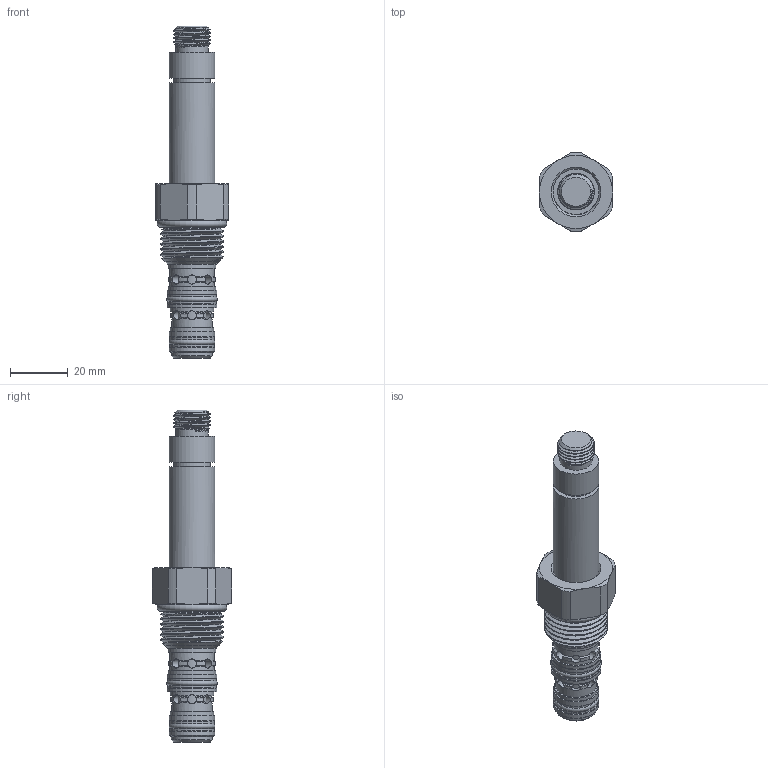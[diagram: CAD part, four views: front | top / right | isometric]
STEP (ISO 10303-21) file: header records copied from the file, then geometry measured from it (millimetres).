
FILE_DESCRIPTION(/* description */ ('','CAx-IF Rec.Pracs.---Representation and Presentation of Product Manufacturing Information (PMI)---4.0---2014-10-13'),/* implementation_level */ '2;1');
FILE_NAME(/* name */ 'P:\EARS\EAR16xx\EAR1683 - catalog pages changes\Group4a_4_Distributions_2_1_23\RTeck Agency_Tom_UNSENT\_step files\HDFS3C00.stp',/* time_stamp */ '2023-02-02T15:36:02-06:00',/* author */ ('Michael'),/* organization */ (''),/* preprocessor_version */ 'ST-DEVELOPER v17.2',/* originating_system */ 'Autodesk Inventor 2019',/* authorisation */ '');
FILE_SCHEMA (('AP242_MANAGED_MODEL_BASED_3D_ENGINEERING_MIM_LF { 1 0 10303 442 1 1 4 }'));
Length unit declared in the file: inch
Products named in the file (1): HDFS3C00
Bounding box: 25.4 x 27.67 x 115.42 mm (x, y, z)
Volume: 28851.3 mm3; surface area: 10923 mm2
Topology: 1 solids, 2 shells, 241 faces, 653 edges, 440 vertices
Faces by surface type: cylinder 105, cone 57, plane 53, torus 16, bspline 10
Full cylindrical faces by diameter (mm): 3.175 x16, 5.156 x1, 7.925 x1, 11.11 x1, 11.163 x1, 11.176 x1, 12.7 x3, 12.827 x1, 12.992 x2, 13.97 x1, 14.275 x1, 14.592 x2, 15.011 x2, 15.392 x2, 15.494 x2, 15.773 x2, 15.85 x1, 15.875 x1, 16.612 x2, 16.967 x2, 17.323 x1, 17.374 x2, 17.399 x1, 19.621 x2, 22.225 x4
Entity records: 14311 total; most frequent: CARTESIAN_POINT 8235, ORIENTED_EDGE 1302, DIRECTION 1109, EDGE_CURVE 651, AXIS2_PLACEMENT_3D 506, VERTEX_POINT 439, EDGE_LOOP 277, CIRCLE 274
